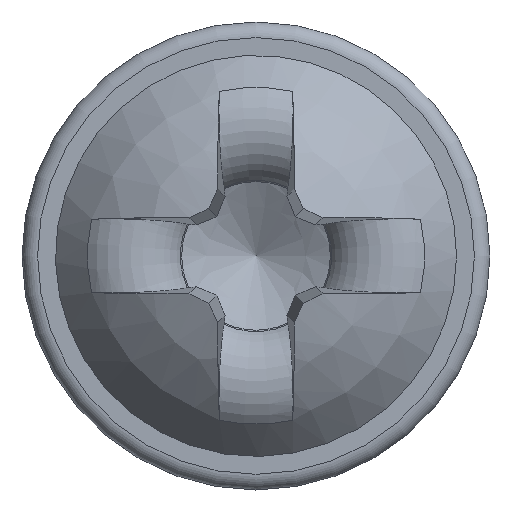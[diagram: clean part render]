
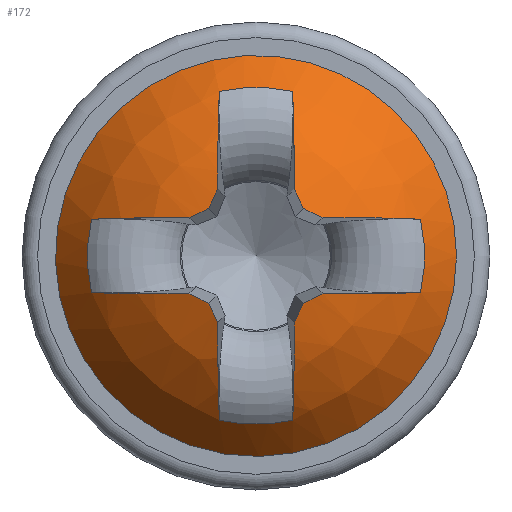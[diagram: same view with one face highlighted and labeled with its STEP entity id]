
A CAD part, top view. The second image highlights one B-rep face of the part: STEP entity #172.
In plain terms, the highlighted spherical face has radius 2.083 mm.
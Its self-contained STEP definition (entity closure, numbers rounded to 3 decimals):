
#133=SPHERICAL_SURFACE('',#1006,2.083);
#144=FACE_BOUND('',#284,.T.);
#145=FACE_BOUND('',#285,.T.);
#172=ADVANCED_FACE('',(#144,#145),#133,.T.);
#284=EDGE_LOOP('',(#413));
#285=EDGE_LOOP('',(#414,#415,#416,#417,#418,#419,#420,#421,#422,#423,#424,
#425,#426,#427,#428,#429,#430,#431,#432,#433));
#352=CIRCLE('',#985,1.714);
#353=CIRCLE('',#986,2.078);
#354=CIRCLE('',#987,1.44);
#355=CIRCLE('',#988,2.078);
#356=CIRCLE('',#989,2.063);
#357=CIRCLE('',#990,2.063);
#358=CIRCLE('',#991,2.078);
#359=CIRCLE('',#992,1.44);
#360=CIRCLE('',#993,2.078);
#361=CIRCLE('',#994,2.063);
#362=CIRCLE('',#995,2.063);
#363=CIRCLE('',#996,2.078);
#364=CIRCLE('',#997,1.44);
#365=CIRCLE('',#998,2.078);
#366=CIRCLE('',#999,2.063);
#367=CIRCLE('',#1000,2.063);
#368=CIRCLE('',#1001,2.078);
#369=CIRCLE('',#1002,1.44);
#370=CIRCLE('',#1003,2.078);
#371=CIRCLE('',#1004,2.063);
#372=CIRCLE('',#1005,2.063);
#413=ORIENTED_EDGE('',*,*,#787,.T.);
#414=ORIENTED_EDGE('',*,*,#788,.F.);
#415=ORIENTED_EDGE('',*,*,#789,.T.);
#416=ORIENTED_EDGE('',*,*,#790,.F.);
#417=ORIENTED_EDGE('',*,*,#791,.F.);
#418=ORIENTED_EDGE('',*,*,#792,.F.);
#419=ORIENTED_EDGE('',*,*,#793,.F.);
#420=ORIENTED_EDGE('',*,*,#794,.T.);
#421=ORIENTED_EDGE('',*,*,#795,.F.);
#422=ORIENTED_EDGE('',*,*,#796,.F.);
#423=ORIENTED_EDGE('',*,*,#797,.F.);
#424=ORIENTED_EDGE('',*,*,#798,.F.);
#425=ORIENTED_EDGE('',*,*,#799,.T.);
#426=ORIENTED_EDGE('',*,*,#800,.F.);
#427=ORIENTED_EDGE('',*,*,#801,.F.);
#428=ORIENTED_EDGE('',*,*,#802,.F.);
#429=ORIENTED_EDGE('',*,*,#803,.F.);
#430=ORIENTED_EDGE('',*,*,#804,.T.);
#431=ORIENTED_EDGE('',*,*,#805,.F.);
#432=ORIENTED_EDGE('',*,*,#806,.F.);
#433=ORIENTED_EDGE('',*,*,#807,.F.);
#691=VERTEX_POINT('',#1929);
#692=VERTEX_POINT('',#1931);
#693=VERTEX_POINT('',#1932);
#694=VERTEX_POINT('',#1934);
#695=VERTEX_POINT('',#1936);
#696=VERTEX_POINT('',#1938);
#697=VERTEX_POINT('',#1940);
#698=VERTEX_POINT('',#1942);
#699=VERTEX_POINT('',#1944);
#700=VERTEX_POINT('',#1946);
#701=VERTEX_POINT('',#1948);
#702=VERTEX_POINT('',#1950);
#703=VERTEX_POINT('',#1952);
#704=VERTEX_POINT('',#1954);
#705=VERTEX_POINT('',#1956);
#706=VERTEX_POINT('',#1958);
#707=VERTEX_POINT('',#1960);
#708=VERTEX_POINT('',#1962);
#709=VERTEX_POINT('',#1964);
#710=VERTEX_POINT('',#1966);
#711=VERTEX_POINT('',#1968);
#787=EDGE_CURVE('',#691,#691,#352,.T.);
#788=EDGE_CURVE('',#692,#693,#353,.T.);
#789=EDGE_CURVE('',#692,#694,#354,.T.);
#790=EDGE_CURVE('',#695,#694,#355,.T.);
#791=EDGE_CURVE('',#696,#695,#356,.T.);
#792=EDGE_CURVE('',#697,#696,#357,.T.);
#793=EDGE_CURVE('',#698,#697,#358,.T.);
#794=EDGE_CURVE('',#698,#699,#359,.T.);
#795=EDGE_CURVE('',#700,#699,#360,.T.);
#796=EDGE_CURVE('',#701,#700,#361,.T.);
#797=EDGE_CURVE('',#702,#701,#362,.T.);
#798=EDGE_CURVE('',#703,#702,#363,.T.);
#799=EDGE_CURVE('',#703,#704,#364,.T.);
#800=EDGE_CURVE('',#705,#704,#365,.T.);
#801=EDGE_CURVE('',#706,#705,#366,.T.);
#802=EDGE_CURVE('',#707,#706,#367,.T.);
#803=EDGE_CURVE('',#708,#707,#368,.T.);
#804=EDGE_CURVE('',#708,#709,#369,.T.);
#805=EDGE_CURVE('',#710,#709,#370,.T.);
#806=EDGE_CURVE('',#711,#710,#371,.T.);
#807=EDGE_CURVE('',#693,#711,#372,.T.);
#985=AXIS2_PLACEMENT_3D('',#1928,#1074,#1075);
#986=AXIS2_PLACEMENT_3D('',#1930,#1076,#1077);
#987=AXIS2_PLACEMENT_3D('',#1933,#1078,#1079);
#988=AXIS2_PLACEMENT_3D('',#1935,#1080,#1081);
#989=AXIS2_PLACEMENT_3D('',#1937,#1082,#1083);
#990=AXIS2_PLACEMENT_3D('',#1939,#1084,#1085);
#991=AXIS2_PLACEMENT_3D('',#1941,#1086,#1087);
#992=AXIS2_PLACEMENT_3D('',#1943,#1088,#1089);
#993=AXIS2_PLACEMENT_3D('',#1945,#1090,#1091);
#994=AXIS2_PLACEMENT_3D('',#1947,#1092,#1093);
#995=AXIS2_PLACEMENT_3D('',#1949,#1094,#1095);
#996=AXIS2_PLACEMENT_3D('',#1951,#1096,#1097);
#997=AXIS2_PLACEMENT_3D('',#1953,#1098,#1099);
#998=AXIS2_PLACEMENT_3D('',#1955,#1100,#1101);
#999=AXIS2_PLACEMENT_3D('',#1957,#1102,#1103);
#1000=AXIS2_PLACEMENT_3D('',#1959,#1104,#1105);
#1001=AXIS2_PLACEMENT_3D('',#1961,#1106,#1107);
#1002=AXIS2_PLACEMENT_3D('',#1963,#1108,#1109);
#1003=AXIS2_PLACEMENT_3D('',#1965,#1110,#1111);
#1004=AXIS2_PLACEMENT_3D('',#1967,#1112,#1113);
#1005=AXIS2_PLACEMENT_3D('',#1969,#1114,#1115);
#1006=AXIS2_PLACEMENT_3D('',#1970,#1116,#1117);
#1074=DIRECTION('',(0.,0.,1.));
#1075=DIRECTION('',(1.,0.,0.));
#1076=DIRECTION('',(-0.035,0.996,0.087));
#1077=DIRECTION('',(0.,-0.087,0.996));
#1078=DIRECTION('',(0.,0.,-1.));
#1079=DIRECTION('',(-1.,0.,0.));
#1080=DIRECTION('',(-0.035,-0.996,0.087));
#1081=DIRECTION('',(0.,-0.087,-0.996));
#1082=DIRECTION('',(0.404,-0.907,0.122));
#1083=DIRECTION('',(0.914,0.407,0.));
#1084=DIRECTION('',(0.907,-0.404,0.122));
#1085=DIRECTION('',(0.407,0.914,0.));
#1086=DIRECTION('',(0.996,0.035,0.087));
#1087=DIRECTION('',(0.087,0.,-0.996));
#1088=DIRECTION('',(0.,0.,-1.));
#1089=DIRECTION('',(-1.,0.,0.));
#1090=DIRECTION('',(-0.996,0.035,0.087));
#1091=DIRECTION('',(0.087,0.,0.996));
#1092=DIRECTION('',(-0.907,-0.404,0.122));
#1093=DIRECTION('',(0.407,-0.914,0.));
#1094=DIRECTION('',(-0.404,-0.907,0.122));
#1095=DIRECTION('',(0.914,-0.407,0.));
#1096=DIRECTION('',(0.035,-0.996,0.087));
#1097=DIRECTION('',(0.,-0.087,-0.996));
#1098=DIRECTION('',(0.,0.,-1.));
#1099=DIRECTION('',(-1.,0.,0.));
#1100=DIRECTION('',(0.035,0.996,0.087));
#1101=DIRECTION('',(0.,-0.087,0.996));
#1102=DIRECTION('',(-0.404,0.907,0.122));
#1103=DIRECTION('',(-0.914,-0.407,0.));
#1104=DIRECTION('',(-0.907,0.404,0.122));
#1105=DIRECTION('',(-0.407,-0.914,0.));
#1106=DIRECTION('',(-0.996,-0.035,0.087));
#1107=DIRECTION('',(0.087,0.,0.996));
#1108=DIRECTION('',(0.,0.,-1.));
#1109=DIRECTION('',(-1.,0.,0.));
#1110=DIRECTION('',(0.996,-0.035,0.087));
#1111=DIRECTION('',(0.087,0.,-0.996));
#1112=DIRECTION('',(0.907,0.404,0.122));
#1113=DIRECTION('',(-0.407,0.914,0.));
#1114=DIRECTION('',(0.404,0.907,0.122));
#1115=DIRECTION('',(-0.914,0.407,0.));
#1116=DIRECTION('',(0.,0.,1.));
#1117=DIRECTION('',(0.,1.,0.));
#1928=CARTESIAN_POINT('',(0.,0.,0.5));
#1929=CARTESIAN_POINT('',(1.714,0.,0.5));
#1930=CARTESIAN_POINT('',(0.005,-0.131,-0.694));
#1931=CARTESIAN_POINT('',(-1.406,-0.313,0.822));
#1932=CARTESIAN_POINT('',(-0.573,-0.325,1.293));
#1933=CARTESIAN_POINT('',(0.,0.,0.822));
#1934=CARTESIAN_POINT('',(-1.406,0.313,0.822));
#1935=CARTESIAN_POINT('',(0.005,0.131,-0.694));
#1936=CARTESIAN_POINT('',(-0.573,0.325,1.293));
#1937=CARTESIAN_POINT('',(-0.115,0.259,-0.717));
#1938=CARTESIAN_POINT('',(-0.404,0.404,1.32));
#1939=CARTESIAN_POINT('',(-0.259,0.115,-0.717));
#1940=CARTESIAN_POINT('',(-0.325,0.573,1.293));
#1941=CARTESIAN_POINT('',(-0.131,-0.005,-0.694));
#1942=CARTESIAN_POINT('',(-0.313,1.406,0.822));
#1943=CARTESIAN_POINT('',(0.,0.,0.822));
#1944=CARTESIAN_POINT('',(0.313,1.406,0.822));
#1945=CARTESIAN_POINT('',(0.131,-0.005,-0.694));
#1946=CARTESIAN_POINT('',(0.325,0.573,1.293));
#1947=CARTESIAN_POINT('',(0.259,0.115,-0.717));
#1948=CARTESIAN_POINT('',(0.404,0.404,1.32));
#1949=CARTESIAN_POINT('',(0.115,0.259,-0.717));
#1950=CARTESIAN_POINT('',(0.573,0.325,1.293));
#1951=CARTESIAN_POINT('',(-0.005,0.131,-0.694));
#1952=CARTESIAN_POINT('',(1.406,0.313,0.822));
#1953=CARTESIAN_POINT('',(0.,0.,0.822));
#1954=CARTESIAN_POINT('',(1.406,-0.313,0.822));
#1955=CARTESIAN_POINT('',(-0.005,-0.131,-0.694));
#1956=CARTESIAN_POINT('',(0.573,-0.325,1.293));
#1957=CARTESIAN_POINT('',(0.115,-0.259,-0.717));
#1958=CARTESIAN_POINT('',(0.404,-0.404,1.32));
#1959=CARTESIAN_POINT('',(0.259,-0.115,-0.717));
#1960=CARTESIAN_POINT('',(0.325,-0.573,1.293));
#1961=CARTESIAN_POINT('',(0.131,0.005,-0.694));
#1962=CARTESIAN_POINT('',(0.313,-1.406,0.822));
#1963=CARTESIAN_POINT('',(0.,0.,0.822));
#1964=CARTESIAN_POINT('',(-0.313,-1.406,0.822));
#1965=CARTESIAN_POINT('',(-0.131,0.005,-0.694));
#1966=CARTESIAN_POINT('',(-0.325,-0.573,1.293));
#1967=CARTESIAN_POINT('',(-0.259,-0.115,-0.717));
#1968=CARTESIAN_POINT('',(-0.404,-0.404,1.32));
#1969=CARTESIAN_POINT('',(-0.115,-0.259,-0.717));
#1970=CARTESIAN_POINT('',(0.,0.,-0.683));
